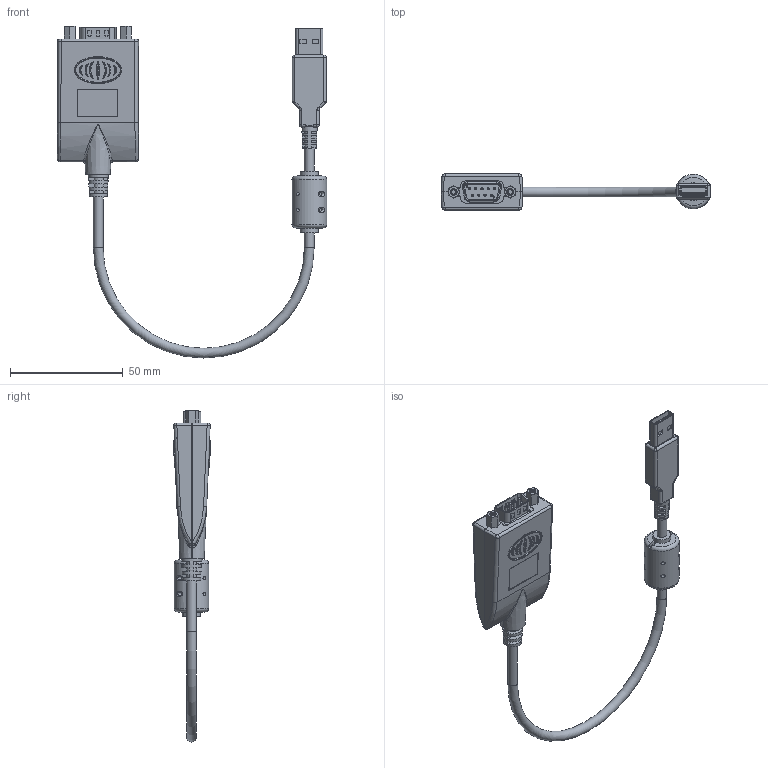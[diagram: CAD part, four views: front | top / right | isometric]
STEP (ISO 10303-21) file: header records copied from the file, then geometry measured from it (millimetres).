
FILE_DESCRIPTION(/* description */ (''),/* implementation_level */ '2;1');
FILE_NAME(/* name */ '/Users/leo/Desktop/Coolgear May/GM-FTDI-LED16/GM-FTDI-LED16.step',/* time_stamp */ '2021-06-03T15:02:56-04:00',/* author */ (''),/* organization */ (''),/* preprocessor_version */ 'ST-DEVELOPER v18.1',/* originating_system */ 'Autodesk Translation Framework v10.9.0.1377',/* authorisation */ '');
FILE_SCHEMA (('AUTOMOTIVE_DESIGN { 1 0 10303 214 3 1 1 }'));
Products named in the file (1): FusionComponent
Bounding box: 119.46 x 16.51 x 147.31 mm (x, y, z)
Volume: 20295.6 mm3; surface area: 27113.6 mm2
Topology: 2 solids, 2 shells, 1276 faces, 3380 edges, 2158 vertices
Faces by surface type: plane 597, cylinder 343, bspline 175, cone 76, torus 53, sphere 32
Full cylindrical faces by diameter (mm): 0.635 x9, 0.991 x9, 1.4 x8, 1.524 x9, 2.02 x18, 2.845 x20, 3 x1, 3.048 x2, 4.3 x5, 5.563 x2, 8 x2, 9.666 x1, 10.066 x1, 15.4 x1
Entity records: 53288 total; most frequent: CARTESIAN_POINT 22969, ORIENTED_EDGE 6692, DIRECTION 5829, EDGE_CURVE 3346, VERTEX_POINT 2158, AXIS2_PLACEMENT_3D 2124, LINE 1581, VECTOR 1581
